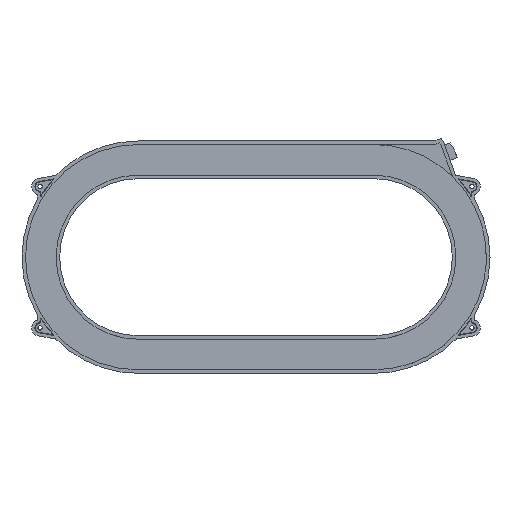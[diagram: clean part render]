
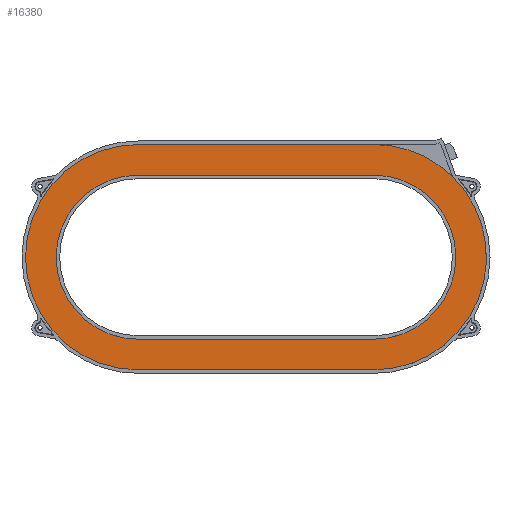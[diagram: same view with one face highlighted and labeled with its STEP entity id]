
A CAD part, top view. The second image highlights one B-rep face of the part: STEP entity #16380.
In plain terms, the highlighted planar face has unit normal (0, 0, 1).
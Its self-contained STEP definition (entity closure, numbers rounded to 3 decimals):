
#7086=DIRECTION('',(-1.,0.,0.));
#7087=VECTOR('',#7086,300.);
#7088=CARTESIAN_POINT('',(150.,104.509,-0.5));
#7089=LINE('',#7088,#7087);
#7090=CARTESIAN_POINT('',(-150.,0.,-0.5));
#7091=DIRECTION('',(0.,0.,1.));
#7092=DIRECTION('',(0.,1.,0.));
#7093=AXIS2_PLACEMENT_3D('',#7090,#7091,#7092);
#7095=DIRECTION('',(1.,0.,0.));
#7096=VECTOR('',#7095,300.);
#7097=CARTESIAN_POINT('',(-150.,-104.509,-0.5));
#7098=LINE('',#7097,#7096);
#7099=CARTESIAN_POINT('',(150.,0.,-0.5));
#7100=DIRECTION('',(0.,0.,1.));
#7101=DIRECTION('',(0.,-1.,0.));
#7102=AXIS2_PLACEMENT_3D('',#7099,#7100,#7101);
#7104=DIRECTION('',(1.,0.,0.));
#7105=VECTOR('',#7104,300.);
#7106=CARTESIAN_POINT('',(-150.,143.491,-0.5));
#7107=LINE('',#7106,#7105);
#7108=CARTESIAN_POINT('',(150.,0.,-0.5));
#7109=DIRECTION('',(0.,0.,-1.));
#7110=DIRECTION('',(0.,1.,0.));
#7111=AXIS2_PLACEMENT_3D('',#7108,#7109,#7110);
#7113=CARTESIAN_POINT('',(150.,0.,-0.5));
#7114=DIRECTION('',(0.,0.,-1.));
#7115=DIRECTION('',(0.697,0.717,0.));
#7116=AXIS2_PLACEMENT_3D('',#7113,#7114,#7115);
#7118=DIRECTION('',(-1.,0.,0.));
#7119=VECTOR('',#7118,300.);
#7120=CARTESIAN_POINT('',(150.,-143.491,-0.5));
#7121=LINE('',#7120,#7119);
#7122=CARTESIAN_POINT('',(-150.,0.,-0.5));
#7123=DIRECTION('',(0.,0.,-1.));
#7124=DIRECTION('',(0.,-1.,0.));
#7125=AXIS2_PLACEMENT_3D('',#7122,#7123,#7124);
#9160=CARTESIAN_POINT('',(150.,-143.491,-0.5));
#9161=CARTESIAN_POINT('',(-150.,-143.491,-0.5));
#9162=VERTEX_POINT('',#9160);
#9163=VERTEX_POINT('',#9161);
#9164=CARTESIAN_POINT('',(-150.,143.491,-0.5));
#9165=VERTEX_POINT('',#9164);
#9166=CARTESIAN_POINT('',(150.,104.509,-0.5));
#9167=CARTESIAN_POINT('',(-150.,104.509,-0.5));
#9168=VERTEX_POINT('',#9166);
#9169=VERTEX_POINT('',#9167);
#9170=CARTESIAN_POINT('',(-150.,-104.509,-0.5));
#9171=VERTEX_POINT('',#9170);
#9172=CARTESIAN_POINT('',(150.,-104.509,-0.5));
#9173=VERTEX_POINT('',#9172);
#9174=CARTESIAN_POINT('',(150.,143.491,-0.5));
#9175=CARTESIAN_POINT('',(250.081,102.828,
-0.5));
#9176=VERTEX_POINT('',#9174);
#9177=VERTEX_POINT('',#9175);
#16357=CARTESIAN_POINT('',(0.,0.,-0.5));
#16358=DIRECTION('',(0.,0.,-1.));
#16359=DIRECTION('',(-1.,0.,0.));
#16360=AXIS2_PLACEMENT_3D('',#16357,#16358,#16359);
#16361=PLANE('',#16360);
#16363=ORIENTED_EDGE('',*,*,#16362,.T.);
#16365=ORIENTED_EDGE('',*,*,#16364,.T.);
#16367=ORIENTED_EDGE('',*,*,#16366,.T.);
#16369=ORIENTED_EDGE('',*,*,#16368,.T.);
#16371=ORIENTED_EDGE('',*,*,#16370,.T.);
#16372=EDGE_LOOP('',(#16363,#16365,#16367,#16369,#16371));
#16373=FACE_OUTER_BOUND('',#16372,.F.);
#16374=ORIENTED_EDGE('',*,*,#16309,.T.);
#16375=ORIENTED_EDGE('',*,*,#16324,.T.);
#16376=ORIENTED_EDGE('',*,*,#16338,.T.);
#16377=ORIENTED_EDGE('',*,*,#16351,.T.);
#16378=EDGE_LOOP('',(#16374,#16375,#16376,#16377));
#16379=FACE_BOUND('',#16378,.F.);
#7094=CIRCLE('',#7093,104.509);
#7103=CIRCLE('',#7102,104.509);
#7112=CIRCLE('',#7111,143.491);
#7117=CIRCLE('',#7116,143.491);
#7126=CIRCLE('',#7125,143.491);
#16309=EDGE_CURVE('',#9168,#9169,#7089,.T.);
#16324=EDGE_CURVE('',#9169,#9171,#7094,.T.);
#16338=EDGE_CURVE('',#9171,#9173,#7098,.T.);
#16351=EDGE_CURVE('',#9173,#9168,#7103,.T.);
#16362=EDGE_CURVE('',#9165,#9176,#7107,.T.);
#16364=EDGE_CURVE('',#9176,#9177,#7112,.T.);
#16366=EDGE_CURVE('',#9177,#9162,#7117,.T.);
#16368=EDGE_CURVE('',#9162,#9163,#7121,.T.);
#16370=EDGE_CURVE('',#9163,#9165,#7126,.T.);
#16380=ADVANCED_FACE('',(#16373,#16379),#16361,.F.);
